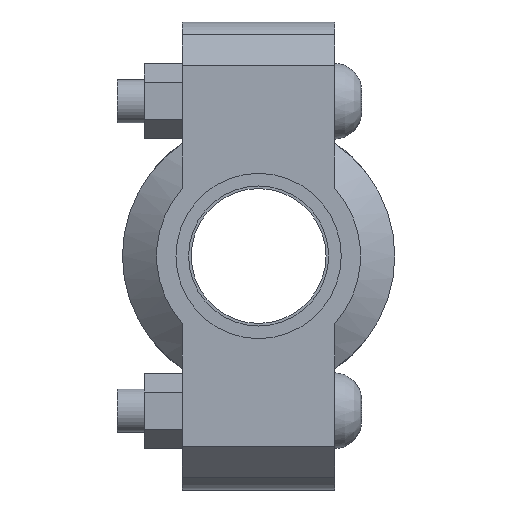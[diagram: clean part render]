
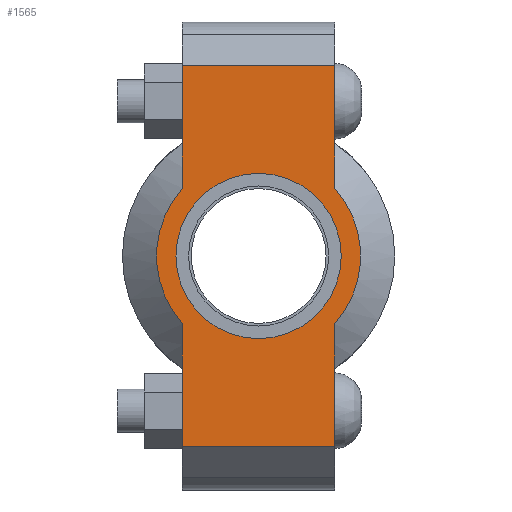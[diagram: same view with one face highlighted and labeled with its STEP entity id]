
A CAD part, left-side view. The second image highlights one B-rep face of the part: STEP entity #1565.
In plain terms, the highlighted planar face has unit normal (-1, 0, 0) as drawn and (0, 0, 1) by its records, which use the part's own axes.
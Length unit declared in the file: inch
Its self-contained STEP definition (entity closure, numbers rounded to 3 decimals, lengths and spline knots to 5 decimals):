
#120=LINE('',#2705,#217);
#135=LINE('',#2764,#232);
#143=LINE('',#2794,#240);
#145=LINE('',#2797,#242);
#146=LINE('',#2802,#243);
#147=LINE('',#2803,#244);
#217=VECTOR('',#2209,0.3937);
#232=VECTOR('',#2244,0.3937);
#240=VECTOR('',#2264,0.3937);
#242=VECTOR('',#2268,0.3937);
#243=VECTOR('',#2273,0.3937);
#244=VECTOR('',#2274,0.3937);
#308=FACE_BOUND('',#485,.T.);
#376=FACE_OUTER_BOUND('',#484,.T.);
#484=EDGE_LOOP('',(#1266,#1267,#1268,#1269,#1270,#1271,#1272,#1273));
#485=EDGE_LOOP('',(#1274));
#567=CIRCLE('',#1793,0.95);
#591=CIRCLE('',#1845,1.172);
#592=CIRCLE('',#1846,1.172);
#663=VERTEX_POINT('',#2531);
#704=VERTEX_POINT('',#2702);
#705=VERTEX_POINT('',#2704);
#726=VERTEX_POINT('',#2759);
#727=VERTEX_POINT('',#2763);
#736=VERTEX_POINT('',#2789);
#737=VERTEX_POINT('',#2793);
#738=VERTEX_POINT('',#2799);
#739=VERTEX_POINT('',#2801);
#827=EDGE_CURVE('',#663,#663,#567,.T.);
#884=EDGE_CURVE('',#705,#704,#120,.T.);
#909=EDGE_CURVE('',#727,#726,#135,.T.);
#922=EDGE_CURVE('',#737,#736,#143,.T.);
#924=EDGE_CURVE('',#737,#704,#145,.T.);
#925=EDGE_CURVE('',#736,#738,#591,.T.);
#926=EDGE_CURVE('',#738,#739,#146,.T.);
#927=EDGE_CURVE('',#727,#739,#147,.T.);
#928=EDGE_CURVE('',#726,#705,#592,.T.);
#1266=ORIENTED_EDGE('',*,*,#924,.F.);
#1267=ORIENTED_EDGE('',*,*,#922,.T.);
#1268=ORIENTED_EDGE('',*,*,#925,.T.);
#1269=ORIENTED_EDGE('',*,*,#926,.T.);
#1270=ORIENTED_EDGE('',*,*,#927,.F.);
#1271=ORIENTED_EDGE('',*,*,#909,.T.);
#1272=ORIENTED_EDGE('',*,*,#928,.T.);
#1273=ORIENTED_EDGE('',*,*,#884,.T.);
#1274=ORIENTED_EDGE('',*,*,#827,.T.);
#1405=PLANE('',#1844);
#1565=ADVANCED_FACE('',(#376,#308),#1405,.T.);
#1793=AXIS2_PLACEMENT_3D('',#2533,#2099,#2100);
#1844=AXIS2_PLACEMENT_3D('',#2798,#2269,#2270);
#1845=AXIS2_PLACEMENT_3D('',#2800,#2271,#2272);
#1846=AXIS2_PLACEMENT_3D('',#2804,#2275,#2276);
#2099=DIRECTION('center_axis',(0.,0.,-1.));
#2100=DIRECTION('ref_axis',(-1.,0.,0.));
#2209=DIRECTION('',(-1.,0.,0.));
#2244=DIRECTION('',(-1.,0.,0.));
#2264=DIRECTION('',(1.,0.,0.));
#2268=DIRECTION('',(0.,1.,0.));
#2269=DIRECTION('center_axis',(0.,0.,1.));
#2270=DIRECTION('ref_axis',(1.,0.,0.));
#2271=DIRECTION('center_axis',(0.,0.,1.));
#2272=DIRECTION('ref_axis',(-1.,0.,0.));
#2273=DIRECTION('',(1.,0.,0.));
#2274=DIRECTION('',(0.,-1.,0.));
#2275=DIRECTION('center_axis',(0.,0.,1.));
#2276=DIRECTION('ref_axis',(-1.,0.,0.));
#2531=CARTESIAN_POINT('',(0.95,0.,0.94));
#2533=CARTESIAN_POINT('Origin',(0.,0.,0.94));
#2702=CARTESIAN_POINT('',(-2.19,0.875,0.94));
#2704=CARTESIAN_POINT('',(-0.77972,0.875,0.94));
#2705=CARTESIAN_POINT('',(2.69,0.875,0.94));
#2759=CARTESIAN_POINT('',(0.77972,0.875,0.94));
#2763=CARTESIAN_POINT('',(2.19,0.875,0.94));
#2764=CARTESIAN_POINT('',(2.69,0.875,0.94));
#2789=CARTESIAN_POINT('',(-0.77972,-0.875,0.94));
#2793=CARTESIAN_POINT('',(-2.19,-0.875,0.94));
#2794=CARTESIAN_POINT('',(-2.69,-0.875,0.94));
#2797=CARTESIAN_POINT('',(-2.19,0.4375,0.94));
#2798=CARTESIAN_POINT('Origin',(0.,0.,0.94));
#2799=CARTESIAN_POINT('',(0.77972,-0.875,0.94));
#2800=CARTESIAN_POINT('Origin',(0.,0.,0.94));
#2801=CARTESIAN_POINT('',(2.19,-0.875,0.94));
#2802=CARTESIAN_POINT('',(-2.69,-0.875,0.94));
#2803=CARTESIAN_POINT('',(2.19,-0.4375,0.94));
#2804=CARTESIAN_POINT('Origin',(0.,0.,0.94));
